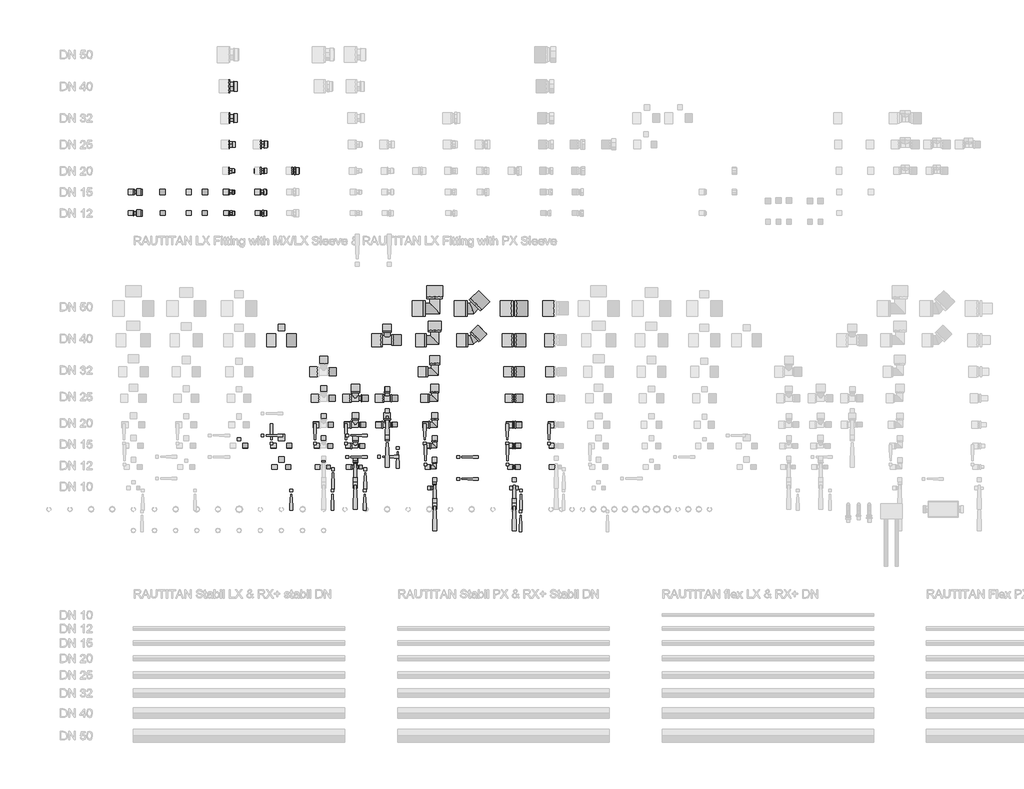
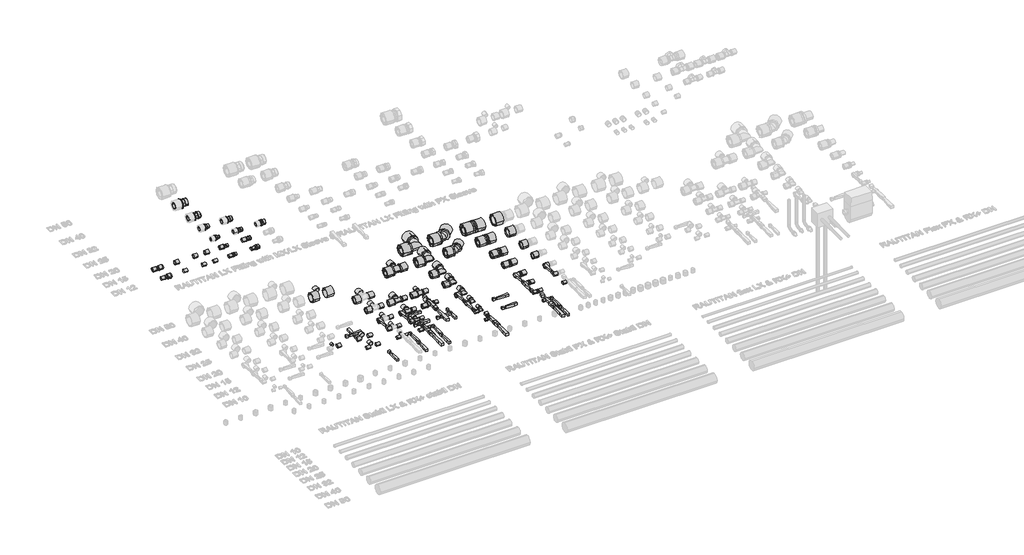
# One storey, part 3 of 18: 140 pipe fittings.
"""IFC4 building model written with IfcOpenShell, lengths in millimetres."""

from ifc_helpers import new_model, si_unit, origin, place, context, project, spatial, transform, mapped, element, save
from components import pipe_fitting_a0515556, pipe_fitting_8ed7db67, pipe_fitting_2d968c61, pipe_fitting_88740129, pipe_fitting_48054694, pipe_fitting_a2244846, pipe_fitting_1c786bbc, pipe_fitting_1f627e11, pipe_fitting_724b9a9d, dn1_749d9a03, pipe_fitting_f541f91f, dn1_c9c9eba3, pipe_fitting_c4092dd8, pipe_fitting_34324f26, pipe_fitting_fd7cd378, pipe_fitting_b5638b35, pipe_fitting_6de9a66a, pipe_fitting_1be4a6b4, pipe_fitting_215c6bd6, pipe_fitting_5de1917f, pipe_fitting_89b5f679, pipe_fitting_aa9c421d, pipe_fitting_244e17d7, pipe_fitting_ff378167, pipe_fitting_f9876a37, pipe_fitting_159ec83a, pipe_fitting_2bffeb97, pipe_fitting_1542a3e7, pipe_fitting_01caa238, pipe_fitting_f56030c5, pipe_fitting_afe3fb24, pipe_fitting_7df122d3, pipe_fitting_fe2e0209, pipe_fitting_7ed082ec, pipe_fitting_bd0087ce, pipe_fitting_b82b2fb3, pipe_fitting_9b72dc0c, pipe_fitting_82a748e2, pipe_fitting_dda8fcc3, pipe_fitting_77dd6fd6, sleeve_lx_7_4_533efbed, pipe_fitting_6fe5a3bb, pipe_fitting_396ce9a4, pipe_fitting_37e15ff8, pipe_fitting_5c01712a, pipe_fitting_b25a488c, sleeve_lx_7_4_d3d6d1e0, pipe_fitting_1876d1a3

model = new_model("IFC4")

# Units and contexts
model_context = context("Model", 3, world=origin())
ifc_project = project(units=[si_unit("LENGTHUNIT", "METRE", prefix="MILLI")], contexts=[model_context])

# Site, building, storey
site = spatial("IfcSite", under=ifc_project)
building = spatial("IfcBuilding", under=site)
storey = spatial("IfcBuildingStorey", under=building, Name="REHAU Starting view", Elevation=0.0)

# Pipe fittings
placement = place(None, origin())
pipe_fitting_shape = pipe_fitting_a0515556(model_context)
element("IfcPipeFitting", 1, ObjectType="RAUTITAN_Union_LX : RTI LX U DN", at=placement, inside=storey, context=model_context, shape_type="MappedRepresentation", body=[
    mapped(pipe_fitting_shape, transform((1800.0, 0.0, 0.0), x_axis=(1.0, 0.0, 0.0), y_axis=(0.0, 1.0, 0.0), z_axis=(0.0, 0.0, 1.0))),
])
pipe_fitting_2_shape = pipe_fitting_8ed7db67(model_context)
element("IfcPipeFitting", 2, ObjectType="RAUTITAN_Union_LX : RTI LX U DN", at=placement, inside=storey, context=model_context, shape_type="MappedRepresentation", body=[
    mapped(pipe_fitting_2_shape, transform((1800.0, 100.0, 0.0), x_axis=(1.0, 0.0, 0.0), y_axis=(0.0, 1.0, 0.0), z_axis=(0.0, 0.0, 1.0))),
])
pipe_fitting_3_shape = pipe_fitting_2d968c61(model_context)
element("IfcPipeFitting", 3, ObjectType="RAUTITAN_Union_LX : RTI LX U DN", at=placement, inside=storey, context=model_context, shape_type="MappedRepresentation", body=[
    mapped(pipe_fitting_3_shape, transform((1800.0, 200.0, 0.0), x_axis=(1.0, 0.0, 0.0), y_axis=(0.0, 1.0, 0.0), z_axis=(0.0, 0.0, 1.0))),
])
pipe_fitting_4_shape = pipe_fitting_88740129(model_context)
element("IfcPipeFitting", 4, ObjectType="RAUTITAN_Union_LX : RTI LX U DN", at=placement, inside=storey, context=model_context, shape_type="MappedRepresentation", body=[
    mapped(pipe_fitting_4_shape, transform((1800.0, 300.0, 0.0), x_axis=(1.0, 0.0, 0.0), y_axis=(0.0, 1.0, 0.0), z_axis=(0.0, 0.0, 1.0))),
])
pipe_fitting_5_shape = pipe_fitting_48054694(model_context)
element("IfcPipeFitting", 5, ObjectType="RAUTITAN_Union_LX : RTI LX U DN", at=placement, inside=storey, context=model_context, shape_type="MappedRepresentation", body=[
    mapped(pipe_fitting_5_shape, transform((1800.0, 550.0, 0.0), x_axis=(1.0, 0.0, 0.0), y_axis=(0.0, 1.0, 0.0), z_axis=(0.0, 0.0, 1.0))),
])
pipe_fitting_6_shape = pipe_fitting_a2244846(model_context)
element("IfcPipeFitting", 6, ObjectType="RAUTITAN_Union_LX : RTI LX U DN", at=placement, inside=storey, context=model_context, shape_type="MappedRepresentation", body=[
    mapped(pipe_fitting_6_shape, transform((1800.0, 700.0, 0.0), x_axis=(1.0, 0.0, 0.0), y_axis=(0.0, 1.0, 0.0), z_axis=(0.0, 0.0, 1.0))),
])
pipe_fitting_7_shape = pipe_fitting_1c786bbc(model_context)
element("IfcPipeFitting", 7, ObjectType="RAUTITAN_Union_LX : RTI LX U DN", at=placement, inside=storey, context=model_context, shape_type="MappedRepresentation", body=[
    mapped(pipe_fitting_7_shape, transform((1800.0, 850.0, 0.0), x_axis=(1.0, 0.0, 0.0), y_axis=(0.0, 1.0, 0.0), z_axis=(0.0, 0.0, 1.0))),
])
pipe_fitting_8_shape = pipe_fitting_1f627e11(model_context)
element("IfcPipeFitting", 8, ObjectType="REHAU_RAUTITAN_Adaptor RX+, MeplaFix : REHAU_RAUTITAN_Adaptor RX+, MeplaFix", at=placement, inside=storey, context=model_context, shape_type="MappedRepresentation", body=[
    mapped(pipe_fitting_8_shape, transform((8.4, 1300.0, 0.0), x_axis=(-1.0, 0.0, 0.0), y_axis=(0.0, -1.0, 0.0), z_axis=(0.0, 0.0, 1.0))),
])
pipe_fitting_9_shape = pipe_fitting_724b9a9d(model_context)
element("IfcPipeFitting", 9, ObjectType="RAUTITAN_Adapter_external_thread : RTI A external DE", at=placement, inside=storey, context=model_context, shape_type="MappedRepresentation", body=[
    mapped(pipe_fitting_9_shape, transform((453.33, 1400.0, 0.0), x_axis=(1.0, 0.0, 0.0), y_axis=(0.0, 1.0, 0.0), z_axis=(0.0, 0.0, 1.0))),
])
dn1_shape = dn1_749d9a03(model_context)
element("IfcPipeFitting", 10, ObjectType="RAUTITAN_Sleeve PX2 : RTI S PX 2", at=placement, inside=storey, context=model_context, shape_type="MappedRepresentation", body=[
    mapped(dn1_shape, transform((450.0, 1400.0, 0.0), x_axis=(-1.0, 0.0, 0.0), y_axis=(0.0, -1.0, 0.0), z_axis=(0.0, 0.0, 1.0))),
])
element("IfcPipeFitting", 11, ObjectType="RAUTITAN_Sleeve PX2 : RTI S PX 2", at=placement, inside=storey, context=model_context, shape_type="MappedRepresentation", body=[
    mapped(dn1_shape, transform((600.0, 1400.0, 0.0), x_axis=(-1.0, 0.0, 0.0), y_axis=(0.0, -1.0, 0.0), z_axis=(0.0, 0.0, 1.0))),
])
pipe_fitting_10_shape = pipe_fitting_f541f91f(model_context)
element("IfcPipeFitting", 12, ObjectType="RAUTITAN_Adapter_external_thread : RTI A external DE", at=placement, inside=storey, context=model_context, shape_type="MappedRepresentation", body=[
    mapped(pipe_fitting_10_shape, transform((458.97, 1300.0, 0.0), x_axis=(1.0, 0.0, 0.0), y_axis=(0.0, 1.0, 0.0), z_axis=(0.0, 0.0, 1.0))),
])
dn1_2_shape = dn1_c9c9eba3(model_context)
element("IfcPipeFitting", 13, ObjectType="RAUTITAN_Sleeve PX2 : RTI S PX 2", at=placement, inside=storey, context=model_context, shape_type="MappedRepresentation", body=[
    mapped(dn1_2_shape, transform((450.0, 1300.0, 0.0), x_axis=(-1.0, 0.0, 0.0), y_axis=(0.0, -1.0, 0.0), z_axis=(0.0, 0.0, 1.0))),
])
element("IfcPipeFitting", 14, ObjectType="RAUTITAN_Sleeve PX2 : RTI S PX 2", at=placement, inside=storey, context=model_context, shape_type="MappedRepresentation", body=[
    mapped(dn1_2_shape, transform((600.0, 1300.0, 0.0), x_axis=(-1.0, 0.0, 0.0), y_axis=(0.0, -1.0, 0.0), z_axis=(0.0, 0.0, 1.0))),
])
pipe_fitting_11_shape = pipe_fitting_c4092dd8(model_context)
element("IfcPipeFitting", 15, ObjectType="RAUTITAN_Adapter_external_thread : RTI A external DE", at=placement, inside=storey, context=model_context, shape_type="MappedRepresentation", body=[
    mapped(pipe_fitting_11_shape, transform((608.97, 1300.0, 0.0), x_axis=(1.0, 0.0, 0.0), y_axis=(0.0, 1.0, 0.0), z_axis=(0.0, 0.0, 1.0))),
])
pipe_fitting_12_shape = pipe_fitting_34324f26(model_context)
element("IfcPipeFitting", 16, ObjectType="RAUTITAN_Adapter_external_thread : RTI A external DE", at=placement, inside=storey, context=model_context, shape_type="MappedRepresentation", body=[
    mapped(pipe_fitting_12_shape, transform((603.35, 1400.0, 0.0), x_axis=(1.0, 0.0, 0.0), y_axis=(0.0, 1.0, 0.0), z_axis=(0.0, 0.0, 1.0))),
])
pipe_fitting_13_shape = pipe_fitting_fd7cd378(model_context)
element("IfcPipeFitting", 17, ObjectType="RAUTITAN_Adapter_external_thread : RTI A external DE", at=placement, inside=storey, context=model_context, shape_type="MappedRepresentation", body=[
    mapped(pipe_fitting_13_shape, transform((453.54, 1500.0, 0.0), x_axis=(1.0, 0.0, 0.0), y_axis=(0.0, 1.0, 0.0), z_axis=(0.0, 0.0, 1.0))),
])
pipe_fitting_14_shape = pipe_fitting_b5638b35(model_context)
element("IfcPipeFitting", 18, ObjectType="RAUTITAN_Adapter_external_thread : RTI A external DE", at=placement, inside=storey, context=model_context, shape_type="MappedRepresentation", body=[
    mapped(pipe_fitting_14_shape, transform((603.54, 1500.0, 0.0), x_axis=(1.0, 0.0, 0.0), y_axis=(0.0, 1.0, 0.0), z_axis=(0.0, 0.0, 1.0))),
])
pipe_fitting_15_shape = pipe_fitting_6de9a66a(model_context)
element("IfcPipeFitting", 19, ObjectType="RAUTITAN_Adapter_external_thread : RTI A external DE", at=placement, inside=storey, context=model_context, shape_type="MappedRepresentation", body=[
    mapped(pipe_fitting_15_shape, transform((759.72, 1500.0, 0.0), x_axis=(1.0, 0.0, 0.0), y_axis=(0.0, 1.0, 0.0), z_axis=(0.0, 0.0, 1.0))),
])
pipe_fitting_16_shape = pipe_fitting_1be4a6b4(model_context)
element("IfcPipeFitting", 20, ObjectType="RAUTITAN_Adapter_external_thread : RTI A external DE", at=placement, inside=storey, context=model_context, shape_type="MappedRepresentation", body=[
    mapped(pipe_fitting_16_shape, transform((454.33, 1625.0, 0.0), x_axis=(1.0, 0.0, 0.0), y_axis=(0.0, 1.0, 0.0), z_axis=(0.0, 0.0, 1.0))),
])
pipe_fitting_17_shape = pipe_fitting_215c6bd6(model_context)
element("IfcPipeFitting", 21, ObjectType="RAUTITAN_Adapter_external_thread : RTI A external DE", at=placement, inside=storey, context=model_context, shape_type="MappedRepresentation", body=[
    mapped(pipe_fitting_17_shape, transform((604.33, 1625.0, 0.0), x_axis=(1.0, 0.0, 0.0), y_axis=(0.0, 1.0, 0.0), z_axis=(0.0, 0.0, 1.0))),
])
pipe_fitting_18_shape = pipe_fitting_5de1917f(model_context)
element("IfcPipeFitting", 22, ObjectType="RAUTITAN_Adapter_external_thread : RTI A external DE", at=placement, inside=storey, context=model_context, shape_type="MappedRepresentation", body=[
    mapped(pipe_fitting_18_shape, transform((455.5, 1750.0, 0.0), x_axis=(1.0, 0.0, 0.0), y_axis=(0.0, 1.0, 0.0), z_axis=(0.0, 0.0, 1.0))),
])
pipe_fitting_19_shape = pipe_fitting_89b5f679(model_context)
element("IfcPipeFitting", 23, ObjectType="RAUTITAN_Adapter_external_thread : RTI A external DE", at=placement, inside=storey, context=model_context, shape_type="MappedRepresentation", body=[
    mapped(pipe_fitting_19_shape, transform((455.25, 1900.0, 0.0), x_axis=(1.0, 0.0, 0.0), y_axis=(0.0, 1.0, 0.0), z_axis=(0.0, 0.0, 1.0))),
])
pipe_fitting_20_shape = pipe_fitting_aa9c421d(model_context)
element("IfcPipeFitting", 24, ObjectType="RAUTITAN_T-piece_LX : RTI LX T DN", at=placement, inside=storey, context=model_context, shape_type="MappedRepresentation", body=[
    mapped(pipe_fitting_20_shape, transform((1050.0, 100.0, 0.0), x_axis=(1.0, 0.0, 0.0), y_axis=(0.0, 1.0, 0.0), z_axis=(0.0, 0.0, 1.0))),
])
pipe_fitting_21_shape = pipe_fitting_244e17d7(model_context)
element("IfcPipeFitting", 25, ObjectType="RAUTITAN_T-piece_LX : RTI LX T DN", at=placement, inside=storey, context=model_context, shape_type="MappedRepresentation", body=[
    mapped(pipe_fitting_21_shape, transform((1050.0, 300.0, 0.0), x_axis=(1.0, 0.0, 0.0), y_axis=(0.0, 1.0, 0.0), z_axis=(0.0, 0.0, 1.0))),
])
pipe_fitting_22_shape = pipe_fitting_ff378167(model_context)
element("IfcPipeFitting", 26, ObjectType="RAUTITAN_T-piece_LX : RTI LX T DN", at=placement, inside=storey, context=model_context, shape_type="MappedRepresentation", body=[
    mapped(pipe_fitting_22_shape, transform((1050.0, 425.0, 0.0), x_axis=(1.0, 0.0, 0.0), y_axis=(0.0, 1.0, 0.0), z_axis=(0.0, 0.0, 1.0))),
])
pipe_fitting_23_shape = pipe_fitting_f9876a37(model_context)
element("IfcPipeFitting", 27, ObjectType="RAUTITAN_T-piece_LX : RTI LX T DN", at=placement, inside=storey, context=model_context, shape_type="MappedRepresentation", body=[
    mapped(pipe_fitting_23_shape, transform((1050.0, 200.0, 0.0), x_axis=(1.0, 0.0, 0.0), y_axis=(0.0, 1.0, 0.0), z_axis=(0.0, 0.0, 1.0))),
])
pipe_fitting_24_shape = pipe_fitting_159ec83a(model_context)
element("IfcPipeFitting", 28, ObjectType="RAUTITAN_T-piece_LX : RTI LX T DN", at=placement, inside=storey, context=model_context, shape_type="MappedRepresentation", body=[
    mapped(pipe_fitting_24_shape, transform((1200.0, 700.0, 0.0), x_axis=(1.0, 0.0, 0.0), y_axis=(0.0, 1.0, 0.0), z_axis=(0.0, 0.0, 1.0))),
])
pipe_fitting_25_shape = pipe_fitting_2bffeb97(model_context)
element("IfcPipeFitting", 29, ObjectType="RAUTITAN_T-piece_LX : RTI LX T DN", at=placement, inside=storey, context=model_context, shape_type="MappedRepresentation", body=[
    mapped(pipe_fitting_25_shape, transform((1200.0, 300.0, 0.0), x_axis=(1.0, 0.0, 0.0), y_axis=(0.0, 1.0, 0.0), z_axis=(0.0, 0.0, 1.0))),
])
pipe_fitting_26_shape = pipe_fitting_1542a3e7(model_context)
element("IfcPipeFitting", 30, ObjectType="RAUTITAN_T-piece_LX : RTI LX T DN", at=placement, inside=storey, context=model_context, shape_type="MappedRepresentation", body=[
    mapped(pipe_fitting_26_shape, transform((1200.0, 425.0, 0.0), x_axis=(1.0, 0.0, 0.0), y_axis=(0.0, 1.0, 0.0), z_axis=(0.0, 0.0, 1.0))),
])
pipe_fitting_27_shape = pipe_fitting_01caa238(model_context)
element("IfcPipeFitting", 31, ObjectType="REHAU_RAUTITAN_Adaptor RX+, MeplaFix : REHAU_RAUTITAN_Adaptor RX+, MeplaFix", at=placement, inside=storey, context=model_context, shape_type="MappedRepresentation", body=[
    mapped(pipe_fitting_27_shape, transform((8.4, 1400.0, 0.0), x_axis=(-1.0, 0.0, 0.0), y_axis=(0.0, -1.0, 0.0), z_axis=(0.0, 0.0, 1.0))),
])
pipe_fitting_28_shape = pipe_fitting_f56030c5(model_context)
element("IfcPipeFitting", 32, ObjectType="RAUTITAN_Corner_LX : RTI LX C DN", at=placement, inside=storey, context=model_context, shape_type="MappedRepresentation", body=[
    mapped(pipe_fitting_28_shape, transform((1600.0, 700.0, 0.0), x_axis=(1.0, 0.0, 0.0), y_axis=(0.0, 1.0, 0.0), z_axis=(0.0, 0.0, 1.0))),
])
pipe_fitting_29_shape = pipe_fitting_afe3fb24(model_context)
element("IfcPipeFitting", 33, ObjectType="RAUTITAN_Union_LX : RTI LX U DN", at=placement, inside=storey, context=model_context, shape_type="MappedRepresentation", body=[
    mapped(pipe_fitting_29_shape, transform((1800.0, 425.0, 0.0), x_axis=(1.0, 0.0, 0.0), y_axis=(0.0, 1.0, 0.0), z_axis=(0.0, 0.0, 1.0))),
])
pipe_fitting_30_shape = pipe_fitting_7df122d3(model_context)
element("IfcPipeFitting", 34, ObjectType="RAUTITAN_Corner_LX : RTI LX C DN", at=placement, inside=storey, context=model_context, shape_type="MappedRepresentation", body=[
    mapped(pipe_fitting_30_shape, transform((1425.0, 0.0, 0.0), x_axis=(1.0, 0.0, 0.0), y_axis=(0.0, 1.0, 0.0), z_axis=(0.0, 0.0, 1.0))),
])
pipe_fitting_31_shape = pipe_fitting_fe2e0209(model_context)
element("IfcPipeFitting", 35, ObjectType="RAUTITAN_Corner_LX : RTI LX C DN", at=placement, inside=storey, context=model_context, shape_type="MappedRepresentation", body=[
    mapped(pipe_fitting_31_shape, transform((1425.0, 100.0, 0.0), x_axis=(1.0, 0.0, 0.0), y_axis=(0.0, 1.0, 0.0), z_axis=(0.0, 0.0, 1.0))),
])
pipe_fitting_32_shape = pipe_fitting_7ed082ec(model_context)
element("IfcPipeFitting", 36, ObjectType="RAUTITAN_Corner_LX : RTI LX C DN", at=placement, inside=storey, context=model_context, shape_type="MappedRepresentation", body=[
    mapped(pipe_fitting_32_shape, transform((1425.0, 200.0, 0.0), x_axis=(1.0, 0.0, 0.0), y_axis=(0.0, 1.0, 0.0), z_axis=(0.0, 0.0, 1.0))),
])
pipe_fitting_33_shape = pipe_fitting_bd0087ce(model_context)
element("IfcPipeFitting", 37, ObjectType="RAUTITAN_Corner_LX : RTI LX C DN", at=placement, inside=storey, context=model_context, shape_type="MappedRepresentation", body=[
    mapped(pipe_fitting_33_shape, transform((1425.0, 300.0, 0.0), x_axis=(1.0, 0.0, 0.0), y_axis=(0.0, 1.0, 0.0), z_axis=(0.0, 0.0, 1.0))),
])
pipe_fitting_34_shape = pipe_fitting_b82b2fb3(model_context)
element("IfcPipeFitting", 38, ObjectType="RAUTITAN_Corner_LX : RTI LX C DN", at=placement, inside=storey, context=model_context, shape_type="MappedRepresentation", body=[
    mapped(pipe_fitting_34_shape, transform((1425.0, 425.0, 0.0), x_axis=(1.0, 0.0, 0.0), y_axis=(0.0, 1.0, 0.0), z_axis=(0.0, 0.0, 1.0))),
])
pipe_fitting_35_shape = pipe_fitting_9b72dc0c(model_context)
element("IfcPipeFitting", 39, ObjectType="RAUTITAN_Corner_LX : RTI LX C DN", at=placement, inside=storey, context=model_context, shape_type="MappedRepresentation", body=[
    mapped(pipe_fitting_35_shape, transform((1425.0, 550.0, 0.0), x_axis=(1.0, 0.0, 0.0), y_axis=(0.0, 1.0, 0.0), z_axis=(0.0, 0.0, 1.0))),
])
pipe_fitting_36_shape = pipe_fitting_82a748e2(model_context)
element("IfcPipeFitting", 40, ObjectType="RAUTITAN_Corner_LX : RTI LX C DN", at=placement, inside=storey, context=model_context, shape_type="MappedRepresentation", body=[
    mapped(pipe_fitting_36_shape, transform((1425.0, 700.0, 0.0), x_axis=(1.0, 0.0, 0.0), y_axis=(0.0, 1.0, 0.0), z_axis=(0.0, 0.0, 1.0))),
])
pipe_fitting_37_shape = pipe_fitting_dda8fcc3(model_context)
element("IfcPipeFitting", 41, ObjectType="RAUTITAN_Corner_LX : RTI LX C DN", at=placement, inside=storey, context=model_context, shape_type="MappedRepresentation", body=[
    mapped(pipe_fitting_37_shape, transform((1425.0, 850.0, 0.0), x_axis=(1.0, 0.0, 0.0), y_axis=(0.0, 1.0, 0.0), z_axis=(0.0, 0.0, 1.0))),
])
pipe_fitting_38_shape = pipe_fitting_77dd6fd6(model_context)
element("IfcPipeFitting", 42, ObjectType="RAUTITAN_Corner_LX : RTI LX C DN", at=placement, inside=storey, context=model_context, shape_type="MappedRepresentation", body=[
    mapped(pipe_fitting_38_shape, transform((1600.0, 850.0, 0.0), x_axis=(1.0, 0.0, 0.0), y_axis=(0.0, 1.0, 0.0), z_axis=(0.0, 0.0, 1.0))),
])
sleeve_lx_7_4_shape = sleeve_lx_7_4_533efbed(model_context)
element("IfcPipeFitting", 43, ObjectType="Sleeve : LX 7,4", at=placement, inside=storey, context=model_context, shape_type="MappedRepresentation", body=[
    mapped(sleeve_lx_7_4_shape, transform((1407.0, 0.0, 0.0), x_axis=(-1.0, 0.0, 0.0), y_axis=(0.0, -1.0, 0.0), z_axis=(0.0, 0.0, 1.0))),
])
element("IfcPipeFitting", 44, ObjectType="Sleeve : LX 7,4", at=placement, inside=storey, context=model_context, shape_type="MappedRepresentation", body=[
    mapped(sleeve_lx_7_4_shape, transform((1425.0, 18.0, 0.0), x_axis=(0.0, 1.0, 0.0), y_axis=(-1.0, 0.0, 0.0), z_axis=(0.0, 0.0, 1.0))),
])
element("IfcPipeFitting", 45, ObjectType="Sleeve : LX 7,4", at=placement, inside=storey, context=model_context, shape_type="MappedRepresentation", body=[
    mapped(sleeve_lx_7_4_shape, transform((500.0, 223.4, 0.0), x_axis=(0.0, 1.0, 0.0), y_axis=(-1.0, 0.0, 0.0), z_axis=(0.0, 0.0, 1.0))),
])
element("IfcPipeFitting", 46, ObjectType="Sleeve : LX 7,4", at=placement, inside=storey, context=model_context, shape_type="MappedRepresentation", body=[
    mapped(sleeve_lx_7_4_shape, transform((900.0, 122.0, 0.0), x_axis=(0.0, 1.0, 0.0), y_axis=(-1.0, 0.0, 0.0), z_axis=(0.0, 0.0, 1.0))),
])
element("IfcPipeFitting", 47, ObjectType="Sleeve : LX 7,4", at=placement, inside=storey, context=model_context, shape_type="MappedRepresentation", body=[
    mapped(sleeve_lx_7_4_shape, transform((915.5, 100.0, 0.0), x_axis=(1.0, 0.0, 0.0), y_axis=(0.0, 1.0, 0.0), z_axis=(0.0, 0.0, 1.0))),
])
element("IfcPipeFitting", 48, ObjectType="Sleeve : LX 7,4", at=placement, inside=storey, context=model_context, shape_type="MappedRepresentation", body=[
    mapped(sleeve_lx_7_4_shape, transform((1068.3, 100.0, 0.0), x_axis=(1.0, 0.0, 0.0), y_axis=(0.0, 1.0, 0.0), z_axis=(0.0, 0.0, 1.0))),
])
element("IfcPipeFitting", 49, ObjectType="Sleeve : LX 7,4", at=placement, inside=storey, context=model_context, shape_type="MappedRepresentation", body=[
    mapped(sleeve_lx_7_4_shape, transform((1794.5, 0.0, 0.0), x_axis=(-1.0, 0.0, 0.0), y_axis=(0.0, -1.0, 0.0), z_axis=(0.0, 0.0, 1.0))),
])
element("IfcPipeFitting", 50, ObjectType="Sleeve : LX 7,4", at=placement, inside=storey, context=model_context, shape_type="MappedRepresentation", body=[
    mapped(sleeve_lx_7_4_shape, transform((1805.5, 0.0, 0.0), x_axis=(1.0, 0.0, 0.0), y_axis=(0.0, 1.0, 0.0), z_axis=(0.0, 0.0, 1.0))),
])
pipe_fitting_39_shape = pipe_fitting_6fe5a3bb(model_context)
element("IfcPipeFitting", 51, ObjectType="Sleeve : LX 7,4", at=placement, inside=storey, context=model_context, shape_type="MappedRepresentation", body=[
    mapped(pipe_fitting_39_shape, transform((1401.5, 200.0, 0.0), x_axis=(-1.0, 0.0, 0.0), y_axis=(0.0, -1.0, 0.0), z_axis=(0.0, 0.0, 1.0))),
])
element("IfcPipeFitting", 52, ObjectType="Sleeve : LX 7,4", at=placement, inside=storey, context=model_context, shape_type="MappedRepresentation", body=[
    mapped(pipe_fitting_39_shape, transform((1425.0, 223.5, 0.0), x_axis=(0.0, 1.0, 0.0), y_axis=(-1.0, 0.0, 0.0), z_axis=(0.0, 0.0, 1.0))),
])
element("IfcPipeFitting", 53, ObjectType="Sleeve : LX 7,4", at=placement, inside=storey, context=model_context, shape_type="MappedRepresentation", body=[
    mapped(pipe_fitting_39_shape, transform((516.1, 200.0, 0.0), x_axis=(1.0, 0.0, 0.0), y_axis=(0.0, 1.0, 0.0), z_axis=(0.0, 0.0, 1.0))),
])
element("IfcPipeFitting", 54, ObjectType="Sleeve : LX 7,4", at=placement, inside=storey, context=model_context, shape_type="MappedRepresentation", body=[
    mapped(pipe_fitting_39_shape, transform((700.0, 122.5, 0.0), x_axis=(0.0, 1.0, 0.0), y_axis=(-1.0, 0.0, 0.0), z_axis=(0.0, 0.0, 1.0))),
])
element("IfcPipeFitting", 55, ObjectType="Sleeve : LX 7,4", at=placement, inside=storey, context=model_context, shape_type="MappedRepresentation", body=[
    mapped(pipe_fitting_39_shape, transform((675.4, 200.0, 0.0), x_axis=(-1.0, 0.0, 0.0), y_axis=(0.0, -1.0, 0.0), z_axis=(0.0, 0.0, 1.0))),
])
element("IfcPipeFitting", 56, ObjectType="Sleeve : LX 7,4", at=placement, inside=storey, context=model_context, shape_type="MappedRepresentation", body=[
    mapped(pipe_fitting_39_shape, transform((724.6, 200.0, 0.0), x_axis=(1.0, 0.0, 0.0), y_axis=(0.0, 1.0, 0.0), z_axis=(0.0, 0.0, 1.0))),
])
element("IfcPipeFitting", 57, ObjectType="Sleeve : LX 7,4", at=placement, inside=storey, context=model_context, shape_type="MappedRepresentation", body=[
    mapped(pipe_fitting_39_shape, transform((900.0, 327.2, 0.0), x_axis=(0.0, 1.0, 0.0), y_axis=(-1.0, 0.0, 0.0), z_axis=(0.0, 0.0, 1.0))),
])
element("IfcPipeFitting", 58, ObjectType="Sleeve : LX 7,4", at=placement, inside=storey, context=model_context, shape_type="MappedRepresentation", body=[
    mapped(pipe_fitting_39_shape, transform((921.1, 300.0, 0.0), x_axis=(1.0, 0.0, 0.0), y_axis=(0.0, 1.0, 0.0), z_axis=(0.0, 0.0, 1.0))),
])
element("IfcPipeFitting", 59, ObjectType="Sleeve : LX 7,4", at=placement, inside=storey, context=model_context, shape_type="MappedRepresentation", body=[
    mapped(pipe_fitting_39_shape, transform((880.9, 200.0, 0.0), x_axis=(-1.0, 0.0, 0.0), y_axis=(0.0, -1.0, 0.0), z_axis=(0.0, 0.0, 1.0))),
])
element("IfcPipeFitting", 60, ObjectType="Sleeve : LX 7,4", at=placement, inside=storey, context=model_context, shape_type="MappedRepresentation", body=[
    mapped(pipe_fitting_39_shape, transform((1074.6, 300.0, 0.0), x_axis=(1.0, 0.0, 0.0), y_axis=(0.0, 1.0, 0.0), z_axis=(0.0, 0.0, 1.0))),
])
element("IfcPipeFitting", 61, ObjectType="Sleeve : LX 7,4", at=placement, inside=storey, context=model_context, shape_type="MappedRepresentation", body=[
    mapped(pipe_fitting_39_shape, transform((1028.9, 200.0, 0.0), x_axis=(-1.0, 0.0, 0.0), y_axis=(0.0, -1.0, 0.0), z_axis=(0.0, 0.0, 1.0))),
])
element("IfcPipeFitting", 62, ObjectType="Sleeve : LX 7,4", at=placement, inside=storey, context=model_context, shape_type="MappedRepresentation", body=[
    mapped(pipe_fitting_39_shape, transform((1050.0, 224.2, 0.0), x_axis=(0.0, 1.0, 0.0), y_axis=(-1.0, 0.0, 0.0), z_axis=(0.0, 0.0, 1.0))),
])
element("IfcPipeFitting", 63, ObjectType="Sleeve : LX 7,4", at=placement, inside=storey, context=model_context, shape_type="MappedRepresentation", body=[
    mapped(pipe_fitting_39_shape, transform((1200.0, 455.2, 0.0), x_axis=(0.0, 1.0, 0.0), y_axis=(-1.0, 0.0, 0.0), z_axis=(0.0, 0.0, 1.0))),
])
element("IfcPipeFitting", 64, ObjectType="Sleeve : LX 7,4", at=placement, inside=storey, context=model_context, shape_type="MappedRepresentation", body=[
    mapped(pipe_fitting_39_shape, transform((1990.45, 200.0, 0.0), x_axis=(-1.0, 0.0, 0.0), y_axis=(0.0, -1.0, 0.0), z_axis=(0.0, 0.0, 1.0))),
])
element("IfcPipeFitting", 65, ObjectType="Sleeve : LX 7,4", at=placement, inside=storey, context=model_context, shape_type="MappedRepresentation", body=[
    mapped(pipe_fitting_39_shape, transform((1793.2, 200.0, 0.0), x_axis=(-1.0, 0.0, 0.0), y_axis=(0.0, -1.0, 0.0), z_axis=(0.0, 0.0, 1.0))),
])
element("IfcPipeFitting", 66, ObjectType="Sleeve : LX 7,4", at=placement, inside=storey, context=model_context, shape_type="MappedRepresentation", body=[
    mapped(pipe_fitting_39_shape, transform((1806.8, 200.0, 0.0), x_axis=(1.0, 0.0, 0.0), y_axis=(0.0, 1.0, 0.0), z_axis=(0.0, 0.0, 1.0))),
])
pipe_fitting_40_shape = pipe_fitting_396ce9a4(model_context)
element("IfcPipeFitting", 67, ObjectType="Sleeve : LX 7,4", at=placement, inside=storey, context=model_context, shape_type="MappedRepresentation", body=[
    mapped(pipe_fitting_40_shape, transform((1397.4, 300.0, 0.0), x_axis=(-1.0, 0.0, 0.0), y_axis=(0.0, -1.0, 0.0), z_axis=(0.0, 0.0, 1.0))),
])
element("IfcPipeFitting", 68, ObjectType="Sleeve : LX 7,4", at=placement, inside=storey, context=model_context, shape_type="MappedRepresentation", body=[
    mapped(pipe_fitting_40_shape, transform((1425.0, 327.6, 0.0), x_axis=(0.0, 1.0, 0.0), y_axis=(-1.0, 0.0, 0.0), z_axis=(0.0, 0.0, 1.0))),
])
element("IfcPipeFitting", 69, ObjectType="Sleeve : LX 7,4", at=placement, inside=storey, context=model_context, shape_type="MappedRepresentation", body=[
    mapped(pipe_fitting_40_shape, transform((700.0, 745.2, 0.0), x_axis=(0.0, 1.0, 0.0), y_axis=(-1.0, 0.0, 0.0), z_axis=(0.0, 0.0, 1.0))),
])
element("IfcPipeFitting", 70, ObjectType="Sleeve : LX 7,4", at=placement, inside=storey, context=model_context, shape_type="MappedRepresentation", body=[
    mapped(pipe_fitting_40_shape, transform((700.0, 224.7, 0.0), x_axis=(0.0, 1.0, 0.0), y_axis=(-1.0, 0.0, 0.0), z_axis=(0.0, 0.0, 1.0))),
])
element("IfcPipeFitting", 71, ObjectType="Sleeve : LX 7,4", at=placement, inside=storey, context=model_context, shape_type="MappedRepresentation", body=[
    mapped(pipe_fitting_40_shape, transform((878.5, 300.0, 0.0), x_axis=(-1.0, 0.0, 0.0), y_axis=(0.0, -1.0, 0.0), z_axis=(0.0, 0.0, 1.0))),
])
element("IfcPipeFitting", 72, ObjectType="Sleeve : LX 7,4", at=placement, inside=storey, context=model_context, shape_type="MappedRepresentation", body=[
    mapped(pipe_fitting_40_shape, transform((900.0, 455.6, 0.0), x_axis=(0.0, 1.0, 0.0), y_axis=(-1.0, 0.0, 0.0), z_axis=(0.0, 0.0, 1.0))),
])
element("IfcPipeFitting", 73, ObjectType="Sleeve : LX 7,4", at=placement, inside=storey, context=model_context, shape_type="MappedRepresentation", body=[
    mapped(pipe_fitting_40_shape, transform((925.0, 425.0, 0.0), x_axis=(1.0, 0.0, 0.0), y_axis=(0.0, 1.0, 0.0), z_axis=(0.0, 0.0, 1.0))),
])
element("IfcPipeFitting", 74, ObjectType="Sleeve : LX 7,4", at=placement, inside=storey, context=model_context, shape_type="MappedRepresentation", body=[
    mapped(pipe_fitting_40_shape, transform((1025.0, 300.0, 0.0), x_axis=(-1.0, 0.0, 0.0), y_axis=(0.0, -1.0, 0.0), z_axis=(0.0, 0.0, 1.0))),
])
element("IfcPipeFitting", 75, ObjectType="Sleeve : LX 7,4", at=placement, inside=storey, context=model_context, shape_type="MappedRepresentation", body=[
    mapped(pipe_fitting_40_shape, transform((1050.0, 327.2, 0.0), x_axis=(0.0, 1.0, 0.0), y_axis=(-1.0, 0.0, 0.0), z_axis=(0.0, 0.0, 1.0))),
])
element("IfcPipeFitting", 76, ObjectType="Sleeve : LX 7,4", at=placement, inside=storey, context=model_context, shape_type="MappedRepresentation", body=[
    mapped(pipe_fitting_40_shape, transform((1080.6, 425.0, 0.0), x_axis=(1.0, 0.0, 0.0), y_axis=(0.0, 1.0, 0.0), z_axis=(0.0, 0.0, 1.0))),
])
element("IfcPipeFitting", 77, ObjectType="Sleeve : LX 7,4", at=placement, inside=storey, context=model_context, shape_type="MappedRepresentation", body=[
    mapped(pipe_fitting_40_shape, transform((1175.0, 300.0, 0.0), x_axis=(-1.0, 0.0, 0.0), y_axis=(0.0, -1.0, 0.0), z_axis=(0.0, 0.0, 1.0))),
])
element("IfcPipeFitting", 78, ObjectType="Sleeve : LX 7,4", at=placement, inside=storey, context=model_context, shape_type="MappedRepresentation", body=[
    mapped(pipe_fitting_40_shape, transform((1200.0, 327.6, 0.0), x_axis=(0.0, 1.0, 0.0), y_axis=(-1.0, 0.0, 0.0), z_axis=(0.0, 0.0, 1.0))),
])
element("IfcPipeFitting", 79, ObjectType="Sleeve : LX 7,4", at=placement, inside=storey, context=model_context, shape_type="MappedRepresentation", body=[
    mapped(pipe_fitting_40_shape, transform((1221.5, 425.0, 0.0), x_axis=(1.0, 0.0, 0.0), y_axis=(0.0, 1.0, 0.0), z_axis=(0.0, 0.0, 1.0))),
])
element("IfcPipeFitting", 80, ObjectType="Sleeve : LX 7,4", at=placement, inside=storey, context=model_context, shape_type="MappedRepresentation", body=[
    mapped(pipe_fitting_40_shape, transform((1990.0, 300.0, 0.0), x_axis=(-1.0, 0.0, 0.0), y_axis=(0.0, -1.0, 0.0), z_axis=(0.0, 0.0, 1.0))),
])
element("IfcPipeFitting", 81, ObjectType="Sleeve : LX 7,4", at=placement, inside=storey, context=model_context, shape_type="MappedRepresentation", body=[
    mapped(pipe_fitting_40_shape, transform((1792.8, 300.0, 0.0), x_axis=(-1.0, 0.0, 0.0), y_axis=(0.0, -1.0, 0.0), z_axis=(0.0, 0.0, 1.0))),
])
element("IfcPipeFitting", 82, ObjectType="Sleeve : LX 7,4", at=placement, inside=storey, context=model_context, shape_type="MappedRepresentation", body=[
    mapped(pipe_fitting_40_shape, transform((1807.2, 300.0, 0.0), x_axis=(1.0, 0.0, 0.0), y_axis=(0.0, 1.0, 0.0), z_axis=(0.0, 0.0, 1.0))),
])
pipe_fitting_41_shape = pipe_fitting_37e15ff8(model_context)
element("IfcPipeFitting", 83, ObjectType="Sleeve : LX 7,4", at=placement, inside=storey, context=model_context, shape_type="MappedRepresentation", body=[
    mapped(pipe_fitting_41_shape, transform((1385.0, 550.0, 0.0), x_axis=(-1.0, 0.0, 0.0), y_axis=(0.0, -1.0, 0.0), z_axis=(0.0, 0.0, 1.0))),
])
element("IfcPipeFitting", 84, ObjectType="Sleeve : LX 7,4", at=placement, inside=storey, context=model_context, shape_type="MappedRepresentation", body=[
    mapped(pipe_fitting_41_shape, transform((1425.0, 590.0, 0.0), x_axis=(0.0, 1.0, 0.0), y_axis=(-1.0, 0.0, 0.0), z_axis=(0.0, 0.0, 1.0))),
])
element("IfcPipeFitting", 85, ObjectType="Sleeve : LX 7,4", at=placement, inside=storey, context=model_context, shape_type="MappedRepresentation", body=[
    mapped(pipe_fitting_41_shape, transform((870.5, 550.0, 0.0), x_axis=(-1.0, 0.0, 0.0), y_axis=(0.0, -1.0, 0.0), z_axis=(0.0, 0.0, 1.0))),
])
element("IfcPipeFitting", 86, ObjectType="Sleeve : LX 7,4", at=placement, inside=storey, context=model_context, shape_type="MappedRepresentation", body=[
    mapped(pipe_fitting_41_shape, transform((1229.5, 700.0, 0.0), x_axis=(1.0, 0.0, 0.0), y_axis=(0.0, 1.0, 0.0), z_axis=(0.0, 0.0, 1.0))),
])
element("IfcPipeFitting", 87, ObjectType="Sleeve : LX 7,4", at=placement, inside=storey, context=model_context, shape_type="MappedRepresentation", body=[
    mapped(pipe_fitting_41_shape, transform((1987.35, 550.0, 0.0), x_axis=(-1.0, 0.0, 0.0), y_axis=(0.0, -1.0, 0.0), z_axis=(0.0, 0.0, 1.0))),
])
element("IfcPipeFitting", 88, ObjectType="Sleeve : LX 7,4", at=placement, inside=storey, context=model_context, shape_type="MappedRepresentation", body=[
    mapped(pipe_fitting_41_shape, transform((1789.0, 550.0, 0.0), x_axis=(-1.0, 0.0, 0.0), y_axis=(0.0, -1.0, 0.0), z_axis=(0.0, 0.0, 1.0))),
])
element("IfcPipeFitting", 89, ObjectType="Sleeve : LX 7,4", at=placement, inside=storey, context=model_context, shape_type="MappedRepresentation", body=[
    mapped(pipe_fitting_41_shape, transform((1811.0, 550.0, 0.0), x_axis=(1.0, 0.0, 0.0), y_axis=(0.0, 1.0, 0.0), z_axis=(0.0, 0.0, 1.0))),
])
pipe_fitting_42_shape = pipe_fitting_5c01712a(model_context)
element("IfcPipeFitting", 90, ObjectType="Sleeve : LX 7,4", at=placement, inside=storey, context=model_context, shape_type="MappedRepresentation", body=[
    mapped(pipe_fitting_42_shape, transform((1379.0, 700.0, 0.0), x_axis=(-1.0, 0.0, 0.0), y_axis=(0.0, -1.0, 0.0), z_axis=(0.0, 0.0, 1.0))),
])
element("IfcPipeFitting", 91, ObjectType="Sleeve : LX 7,4", at=placement, inside=storey, context=model_context, shape_type="MappedRepresentation", body=[
    mapped(pipe_fitting_42_shape, transform((1425.0, 746.0, 0.0), x_axis=(0.0, 1.0, 0.0), y_axis=(-1.0, 0.0, 0.0), z_axis=(0.0, 0.0, 1.0))),
])
element("IfcPipeFitting", 92, ObjectType="Sleeve : LX 7,4", at=placement, inside=storey, context=model_context, shape_type="MappedRepresentation", body=[
    mapped(pipe_fitting_42_shape, transform((1574.0, 700.0, 0.0), x_axis=(-1.0, 0.0, 0.0), y_axis=(0.0, -1.0, 0.0), z_axis=(0.0, 0.0, 1.0))),
])
element("IfcPipeFitting", 93, ObjectType="Sleeve : LX 7,4", at=placement, inside=storey, context=model_context, shape_type="MappedRepresentation", body=[
    mapped(pipe_fitting_42_shape, transform((1618.3847763, 718.3847763, 0.0), x_axis=(0.7071067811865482, 0.7071067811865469, 0.0), y_axis=(-0.7071067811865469, 0.7071067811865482, 0.0), z_axis=(0.0, 0.0, 1.0))),
])
element("IfcPipeFitting", 94, ObjectType="Sleeve : LX 7,4", at=placement, inside=storey, context=model_context, shape_type="MappedRepresentation", body=[
    mapped(pipe_fitting_42_shape, transform((674.0, 700.0, 0.0), x_axis=(-1.0, 0.0, 0.0), y_axis=(0.0, -1.0, 0.0), z_axis=(0.0, 0.0, 1.0))),
])
element("IfcPipeFitting", 95, ObjectType="Sleeve : LX 7,4", at=placement, inside=storey, context=model_context, shape_type="MappedRepresentation", body=[
    mapped(pipe_fitting_42_shape, transform((726.0, 700.0, 0.0), x_axis=(1.0, 0.0, 0.0), y_axis=(0.0, 1.0, 0.0), z_axis=(0.0, 0.0, 1.0))),
])
element("IfcPipeFitting", 96, ObjectType="Sleeve : LX 7,4", at=placement, inside=storey, context=model_context, shape_type="MappedRepresentation", body=[
    mapped(pipe_fitting_42_shape, transform((1170.5, 700.0, 0.0), x_axis=(-1.0, 0.0, 0.0), y_axis=(0.0, -1.0, 0.0), z_axis=(0.0, 0.0, 1.0))),
])
element("IfcPipeFitting", 97, ObjectType="Sleeve : LX 7,4", at=placement, inside=storey, context=model_context, shape_type="MappedRepresentation", body=[
    mapped(pipe_fitting_42_shape, transform((1989.0, 700.0, 0.0), x_axis=(-1.0, 0.0, 0.0), y_axis=(0.0, -1.0, 0.0), z_axis=(0.0, 0.0, 1.0))),
])
element("IfcPipeFitting", 98, ObjectType="Sleeve : LX 7,4", at=placement, inside=storey, context=model_context, shape_type="MappedRepresentation", body=[
    mapped(pipe_fitting_42_shape, transform((1789.0, 700.0, 0.0), x_axis=(-1.0, 0.0, 0.0), y_axis=(0.0, -1.0, 0.0), z_axis=(0.0, 0.0, 1.0))),
])
element("IfcPipeFitting", 99, ObjectType="Sleeve : LX 7,4", at=placement, inside=storey, context=model_context, shape_type="MappedRepresentation", body=[
    mapped(pipe_fitting_42_shape, transform((1811.0, 700.0, 0.0), x_axis=(1.0, 0.0, 0.0), y_axis=(0.0, 1.0, 0.0), z_axis=(0.0, 0.0, 1.0))),
])
pipe_fitting_43_shape = pipe_fitting_b25a488c(model_context)
element("IfcPipeFitting", 100, ObjectType="Sleeve : LX 7,4", at=placement, inside=storey, context=model_context, shape_type="MappedRepresentation", body=[
    mapped(pipe_fitting_43_shape, transform((1371.0, 850.0, 0.0), x_axis=(-1.0, 0.0, 0.0), y_axis=(0.0, -1.0, 0.0), z_axis=(0.0, 0.0, 1.0))),
])
element("IfcPipeFitting", 101, ObjectType="Sleeve : LX 7,4", at=placement, inside=storey, context=model_context, shape_type="MappedRepresentation", body=[
    mapped(pipe_fitting_43_shape, transform((1425.0, 904.0, 0.0), x_axis=(0.0, 1.0, 0.0), y_axis=(-1.0, 0.0, 0.0), z_axis=(0.0, 0.0, 1.0))),
])
element("IfcPipeFitting", 102, ObjectType="Sleeve : LX 7,4", at=placement, inside=storey, context=model_context, shape_type="MappedRepresentation", body=[
    mapped(pipe_fitting_43_shape, transform((1570.7, 850.0, 0.0), x_axis=(-1.0, 0.0, 0.0), y_axis=(0.0, -1.0, 0.0), z_axis=(0.0, 0.0, 1.0))),
])
element("IfcPipeFitting", 103, ObjectType="Sleeve : LX 7,4", at=placement, inside=storey, context=model_context, shape_type="MappedRepresentation", body=[
    mapped(pipe_fitting_43_shape, transform((1620.7182287, 870.7182287, 0.0), x_axis=(0.7071067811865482, 0.7071067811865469, 0.0), y_axis=(-0.7071067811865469, 0.7071067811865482, 0.0), z_axis=(0.0, 0.0, 1.0))),
])
element("IfcPipeFitting", 104, ObjectType="Sleeve : LX 7,4", at=placement, inside=storey, context=model_context, shape_type="MappedRepresentation", body=[
    mapped(pipe_fitting_43_shape, transform((1988.25, 850.0, 0.0), x_axis=(-1.0, 0.0, 0.0), y_axis=(0.0, -1.0, 0.0), z_axis=(0.0, 0.0, 1.0))),
])
element("IfcPipeFitting", 105, ObjectType="Sleeve : LX 7,4", at=placement, inside=storey, context=model_context, shape_type="MappedRepresentation", body=[
    mapped(pipe_fitting_43_shape, transform((1787.5, 850.0, 0.0), x_axis=(-1.0, 0.0, 0.0), y_axis=(0.0, -1.0, 0.0), z_axis=(0.0, 0.0, 1.0))),
])
element("IfcPipeFitting", 106, ObjectType="Sleeve : LX 7,4", at=placement, inside=storey, context=model_context, shape_type="MappedRepresentation", body=[
    mapped(pipe_fitting_43_shape, transform((1812.5, 850.0, 0.0), x_axis=(1.0, 0.0, 0.0), y_axis=(0.0, 1.0, 0.0), z_axis=(0.0, 0.0, 1.0))),
])
sleeve_lx_7_4_2_shape = sleeve_lx_7_4_d3d6d1e0(model_context)
element("IfcPipeFitting", 107, ObjectType="Sleeve : LX 7,4", at=placement, inside=storey, context=model_context, shape_type="MappedRepresentation", body=[
    mapped(sleeve_lx_7_4_2_shape, transform((679.4, 100.0, 0.0), x_axis=(-1.0, 0.0, 0.0), y_axis=(0.0, -1.0, 0.0), z_axis=(0.0, 0.0, 1.0))),
])
element("IfcPipeFitting", 108, ObjectType="Sleeve : LX 7,4", at=placement, inside=storey, context=model_context, shape_type="MappedRepresentation", body=[
    mapped(sleeve_lx_7_4_2_shape, transform((720.6, 100.0, 0.0), x_axis=(1.0, 0.0, 0.0), y_axis=(0.0, 1.0, 0.0), z_axis=(0.0, 0.0, 1.0))),
])
element("IfcPipeFitting", 109, ObjectType="Sleeve : LX 7,4", at=placement, inside=storey, context=model_context, shape_type="MappedRepresentation", body=[
    mapped(sleeve_lx_7_4_2_shape, transform((884.4, 100.0, 0.0), x_axis=(-1.0, 0.0, 0.0), y_axis=(0.0, -1.0, 0.0), z_axis=(0.0, 0.0, 1.0))),
])
element("IfcPipeFitting", 110, ObjectType="Sleeve : LX 7,4", at=placement, inside=storey, context=model_context, shape_type="MappedRepresentation", body=[
    mapped(sleeve_lx_7_4_2_shape, transform((900.0, 223.7, 0.0), x_axis=(0.0, 1.0, 0.0), y_axis=(-1.0, 0.0, 0.0), z_axis=(0.0, 0.0, 1.0))),
])
element("IfcPipeFitting", 111, ObjectType="Sleeve : LX 7,4", at=placement, inside=storey, context=model_context, shape_type="MappedRepresentation", body=[
    mapped(sleeve_lx_7_4_2_shape, transform((918.6, 200.0, 0.0), x_axis=(1.0, 0.0, 0.0), y_axis=(0.0, 1.0, 0.0), z_axis=(0.0, 0.0, 1.0))),
])
element("IfcPipeFitting", 112, ObjectType="Sleeve : LX 7,4", at=placement, inside=storey, context=model_context, shape_type="MappedRepresentation", body=[
    mapped(sleeve_lx_7_4_2_shape, transform((1031.4, 100.0, 0.0), x_axis=(-1.0, 0.0, 0.0), y_axis=(0.0, -1.0, 0.0), z_axis=(0.0, 0.0, 1.0))),
])
element("IfcPipeFitting", 113, ObjectType="Sleeve : LX 7,4", at=placement, inside=storey, context=model_context, shape_type="MappedRepresentation", body=[
    mapped(sleeve_lx_7_4_2_shape, transform((1050.0, 122.3, 0.0), x_axis=(0.0, 1.0, 0.0), y_axis=(-1.0, 0.0, 0.0), z_axis=(0.0, 0.0, 1.0))),
])
element("IfcPipeFitting", 114, ObjectType="Sleeve : LX 7,4", at=placement, inside=storey, context=model_context, shape_type="MappedRepresentation", body=[
    mapped(sleeve_lx_7_4_2_shape, transform((1070.6, 200.0, 0.0), x_axis=(1.0, 0.0, 0.0), y_axis=(0.0, 1.0, 0.0), z_axis=(0.0, 0.0, 1.0))),
])
element("IfcPipeFitting", 115, ObjectType="Sleeve : LX 7,4", at=placement, inside=storey, context=model_context, shape_type="MappedRepresentation", body=[
    mapped(sleeve_lx_7_4_2_shape, transform((1224.1, 300.0, 0.0), x_axis=(1.0, 0.0, 0.0), y_axis=(0.0, 1.0, 0.0), z_axis=(0.0, 0.0, 1.0))),
])
element("IfcPipeFitting", 116, ObjectType="Sleeve : LX 7,4", at=placement, inside=storey, context=model_context, shape_type="MappedRepresentation", body=[
    mapped(sleeve_lx_7_4_2_shape, transform((1793.7, 100.0, 0.0), x_axis=(-1.0, 0.0, 0.0), y_axis=(0.0, -1.0, 0.0), z_axis=(0.0, 0.0, 1.0))),
])
element("IfcPipeFitting", 117, ObjectType="Sleeve : LX 7,4", at=placement, inside=storey, context=model_context, shape_type="MappedRepresentation", body=[
    mapped(sleeve_lx_7_4_2_shape, transform((1806.3, 100.0, 0.0), x_axis=(1.0, 0.0, 0.0), y_axis=(0.0, 1.0, 0.0), z_axis=(0.0, 0.0, 1.0))),
])
element("IfcPipeFitting", 118, ObjectType="Sleeve : LX 7,4", at=placement, inside=storey, context=model_context, shape_type="MappedRepresentation", body=[
    mapped(sleeve_lx_7_4_2_shape, transform((1404.0, 100.0, 0.0), x_axis=(-1.0, 0.0, 0.0), y_axis=(0.0, -1.0, 0.0), z_axis=(0.0, 0.0, 1.0))),
])
element("IfcPipeFitting", 119, ObjectType="Sleeve : LX 7,4", at=placement, inside=storey, context=model_context, shape_type="MappedRepresentation", body=[
    mapped(sleeve_lx_7_4_2_shape, transform((1425.0, 121.0, 0.0), x_axis=(0.0, 1.0, 0.0), y_axis=(-1.0, 0.0, 0.0), z_axis=(0.0, 0.0, 1.0))),
])
element("IfcPipeFitting", 120, ObjectType="Sleeve : LX 7,4", at=placement, inside=storey, context=model_context, shape_type="MappedRepresentation", body=[
    mapped(sleeve_lx_7_4_2_shape, transform((1991.5, 100.0, 0.0), x_axis=(-1.0, 0.0, 0.0), y_axis=(0.0, -1.0, 0.0), z_axis=(0.0, 0.0, 1.0))),
])
pipe_fitting_44_shape = pipe_fitting_1876d1a3(model_context)
element("IfcPipeFitting", 121, ObjectType="Sleeve : LX 7,4", at=placement, inside=storey, context=model_context, shape_type="MappedRepresentation", body=[
    mapped(pipe_fitting_44_shape, transform((1393.5, 425.0, 0.0), x_axis=(-1.0, 0.0, 0.0), y_axis=(0.0, -1.0, 0.0), z_axis=(0.0, 0.0, 1.0))),
])
element("IfcPipeFitting", 122, ObjectType="Sleeve : LX 7,4", at=placement, inside=storey, context=model_context, shape_type="MappedRepresentation", body=[
    mapped(pipe_fitting_44_shape, transform((1425.0, 456.5, 0.0), x_axis=(0.0, 1.0, 0.0), y_axis=(-1.0, 0.0, 0.0), z_axis=(0.0, 0.0, 1.0))),
])
element("IfcPipeFitting", 123, ObjectType="Sleeve : LX 7,4", at=placement, inside=storey, context=model_context, shape_type="MappedRepresentation", body=[
    mapped(pipe_fitting_44_shape, transform((876.0, 425.0, 0.0), x_axis=(-1.0, 0.0, 0.0), y_axis=(0.0, -1.0, 0.0), z_axis=(0.0, 0.0, 1.0))),
])
element("IfcPipeFitting", 124, ObjectType="Sleeve : LX 7,4", at=placement, inside=storey, context=model_context, shape_type="MappedRepresentation", body=[
    mapped(pipe_fitting_44_shape, transform((900.0, 588.5, 0.0), x_axis=(0.0, 1.0, 0.0), y_axis=(-1.0, 0.0, 0.0), z_axis=(0.0, 0.0, 1.0))),
])
element("IfcPipeFitting", 125, ObjectType="Sleeve : LX 7,4", at=placement, inside=storey, context=model_context, shape_type="MappedRepresentation", body=[
    mapped(pipe_fitting_44_shape, transform((925.8, 550.0, 0.0), x_axis=(1.0, 0.0, 0.0), y_axis=(0.0, 1.0, 0.0), z_axis=(0.0, 0.0, 1.0))),
])
element("IfcPipeFitting", 126, ObjectType="Sleeve : LX 7,4", at=placement, inside=storey, context=model_context, shape_type="MappedRepresentation", body=[
    mapped(pipe_fitting_44_shape, transform((1024.2, 425.0, 0.0), x_axis=(-1.0, 0.0, 0.0), y_axis=(0.0, -1.0, 0.0), z_axis=(0.0, 0.0, 1.0))),
])
element("IfcPipeFitting", 127, ObjectType="Sleeve : LX 7,4", at=placement, inside=storey, context=model_context, shape_type="MappedRepresentation", body=[
    mapped(pipe_fitting_44_shape, transform((1050.0, 456.4, 0.0), x_axis=(0.0, 1.0, 0.0), y_axis=(-1.0, 0.0, 0.0), z_axis=(0.0, 0.0, 1.0))),
])
element("IfcPipeFitting", 128, ObjectType="Sleeve : LX 7,4", at=placement, inside=storey, context=model_context, shape_type="MappedRepresentation", body=[
    mapped(pipe_fitting_44_shape, transform((1200.0, 742.0, 0.0), x_axis=(0.0, 1.0, 0.0), y_axis=(-1.0, 0.0, 0.0), z_axis=(0.0, 0.0, 1.0))),
])
element("IfcPipeFitting", 129, ObjectType="Sleeve : LX 7,4", at=placement, inside=storey, context=model_context, shape_type="MappedRepresentation", body=[
    mapped(pipe_fitting_44_shape, transform((1178.5, 425.0, 0.0), x_axis=(-1.0, 0.0, 0.0), y_axis=(0.0, -1.0, 0.0), z_axis=(0.0, 0.0, 1.0))),
])
element("IfcPipeFitting", 130, ObjectType="Sleeve : LX 7,4", at=placement, inside=storey, context=model_context, shape_type="MappedRepresentation", body=[
    mapped(pipe_fitting_44_shape, transform((1988.15, 425.0, 0.0), x_axis=(-1.0, 0.0, 0.0), y_axis=(0.0, -1.0, 0.0), z_axis=(0.0, 0.0, 1.0))),
])
element("IfcPipeFitting", 131, ObjectType="Sleeve : LX 7,4", at=placement, inside=storey, context=model_context, shape_type="MappedRepresentation", body=[
    mapped(pipe_fitting_44_shape, transform((1792.0, 425.0, 0.0), x_axis=(-1.0, 0.0, 0.0), y_axis=(0.0, -1.0, 0.0), z_axis=(0.0, 0.0, 1.0))),
])
element("IfcPipeFitting", 132, ObjectType="Sleeve : LX 7,4", at=placement, inside=storey, context=model_context, shape_type="MappedRepresentation", body=[
    mapped(pipe_fitting_44_shape, transform((1808.0, 425.0, 0.0), x_axis=(1.0, 0.0, 0.0), y_axis=(0.0, 1.0, 0.0), z_axis=(0.0, 0.0, 1.0))),
])
element("IfcPipeFitting", 133, ObjectType="Sleeve : PX 7,4", at=placement, inside=storey, context=model_context, shape_type="MappedRepresentation", body=[
    mapped(dn1_2_shape, transform((0.0, 1300.0, 0.0), x_axis=(-1.0, 0.0, 0.0), y_axis=(0.0, -1.0, 0.0), z_axis=(0.0, 0.0, 1.0))),
])
element("IfcPipeFitting", 134, ObjectType="Sleeve : PX 7,4", at=placement, inside=storey, context=model_context, shape_type="MappedRepresentation", body=[
    mapped(dn1_2_shape, transform((325.3, 1300.0, 0.0), x_axis=(1.0, 0.0, 0.0), y_axis=(0.0, 1.0, 0.0), z_axis=(0.0, 0.0, 1.0))),
])
element("IfcPipeFitting", 135, ObjectType="Sleeve : PX 7,4", at=placement, inside=storey, context=model_context, shape_type="MappedRepresentation", body=[
    mapped(dn1_2_shape, transform((274.7, 1300.0, 0.0), x_axis=(-1.0, 0.0, 0.0), y_axis=(0.0, -1.0, 0.0), z_axis=(0.0, 0.0, 1.0))),
])
element("IfcPipeFitting", 136, ObjectType="Sleeve : PX 7,4", at=placement, inside=storey, context=model_context, shape_type="MappedRepresentation", body=[
    mapped(dn1_2_shape, transform((126.3, 1300.0, 0.0), x_axis=(1.0, 0.0, 0.0), y_axis=(0.0, 1.0, 0.0), z_axis=(0.0, 0.0, 1.0))),
])
element("IfcPipeFitting", 137, ObjectType="Sleeve : PX 7,4", at=placement, inside=storey, context=model_context, shape_type="MappedRepresentation", body=[
    mapped(dn1_shape, transform((325.8, 1400.0, 0.0), x_axis=(1.0, 0.0, 0.0), y_axis=(0.0, 1.0, 0.0), z_axis=(0.0, 0.0, 1.0))),
])
element("IfcPipeFitting", 138, ObjectType="Sleeve : PX 7,4", at=placement, inside=storey, context=model_context, shape_type="MappedRepresentation", body=[
    mapped(dn1_shape, transform((274.2, 1400.0, 0.0), x_axis=(-1.0, 0.0, 0.0), y_axis=(0.0, -1.0, 0.0), z_axis=(0.0, 0.0, 1.0))),
])
element("IfcPipeFitting", 139, ObjectType="Sleeve : PX 7,4", at=placement, inside=storey, context=model_context, shape_type="MappedRepresentation", body=[
    mapped(dn1_shape, transform((0.0, 1400.0, 0.0), x_axis=(-1.0, 0.0, 0.0), y_axis=(0.0, -1.0, 0.0), z_axis=(0.0, 0.0, 1.0))),
])
element("IfcPipeFitting", 140, ObjectType="Sleeve : PX 7,4", at=placement, inside=storey, context=model_context, shape_type="MappedRepresentation", body=[
    mapped(dn1_shape, transform((125.0, 1400.0, 0.0), x_axis=(1.0, 0.0, 0.0), y_axis=(0.0, 1.0, 0.0), z_axis=(0.0, 0.0, 1.0))),
])

save(model, "model.ifc")
